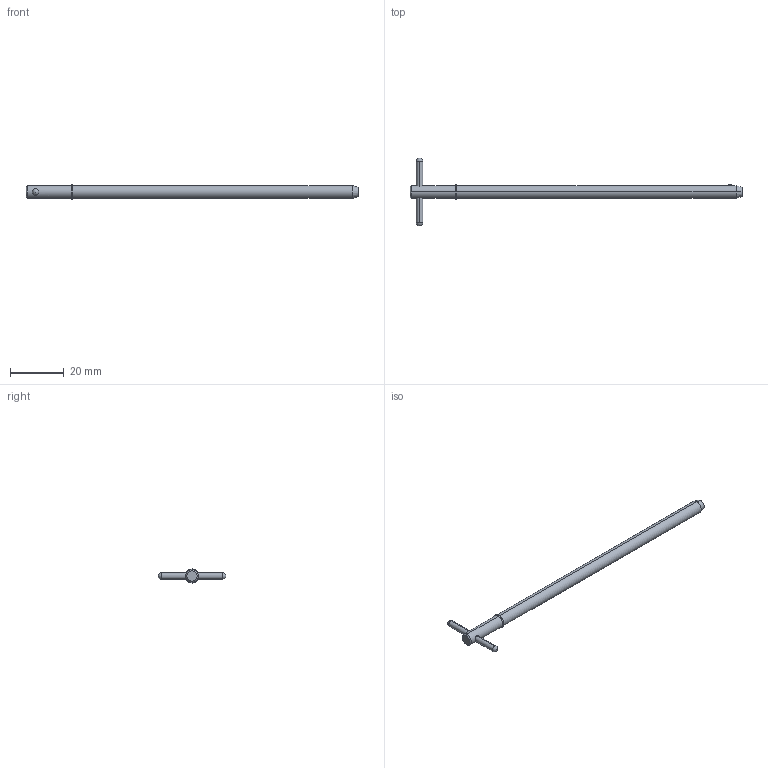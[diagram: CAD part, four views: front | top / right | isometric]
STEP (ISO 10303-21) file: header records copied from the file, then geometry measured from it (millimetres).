
FILE_DESCRIPTION (( 'STEP AP203' ), '1' );
FILE_NAME ('33018.W1840.step', '2024-11-19T17:07:38', ( '' ), ( '' ), 'SwSTEP 2.0', 'SolidWorks 2019', '' );
FILE_SCHEMA (( 'CONFIG_CONTROL_DESIGN' ));
Length unit declared in the file: millimetre
Products named in the file (3): Part2_33018.W1840; Part1_33018.W1840; 33018.W1840
Assembly tree (2 placements, depth 2):
  33018.W1840
    Part1_33018.W1840
    Part2_33018.W1840
Bounding box: 124.13 x 25.4 x 5.24 mm (x, y, z)
Volume: 2289.4 mm3; surface area: 2099.3 mm2
Topology: 2 solids, 2 shells, 22 faces, 47 edges, 30 vertices
Faces by surface type: cylinder 10, sphere 4, cone 4, plane 4
Entity records: 961 total; most frequent: CARTESIAN_POINT 204, DIRECTION 110, ORIENTED_EDGE 82, AXIS2_PLACEMENT_3D 48, EDGE_CURVE 41, EDGE_LOOP 27, VERTEX_POINT 26, PERSON_AND_ORGANIZATION 26
